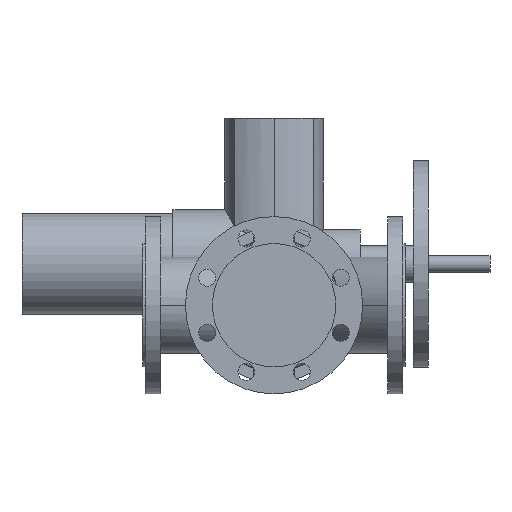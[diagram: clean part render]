
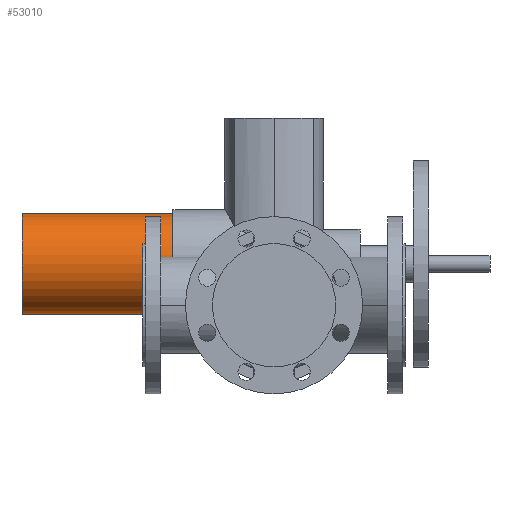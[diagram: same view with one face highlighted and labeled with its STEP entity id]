
A CAD part, front view. The second image highlights one B-rep face of the part: STEP entity #53010.
In plain terms, the highlighted cylindrical face has radius 76.5 mm (diameter 153 mm), a partial arc.
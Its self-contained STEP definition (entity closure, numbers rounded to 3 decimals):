
#52600=CARTESIAN_POINT('',(-69.,674.,63.));
#52610=DIRECTION('',(1.,0.,0.));
#52620=DIRECTION('',(0.,0.,-1.));
#52630=AXIS2_PLACEMENT_3D('',#52600,#52610,#52620);
#52640=CYLINDRICAL_SURFACE('',#52630,76.5);
#52650=CARTESIAN_POINT('',(-69.,674.,-13.5));
#52660=DIRECTION('',(1.,0.,0.));
#52670=VECTOR('',#52660,1.);
#52680=LINE('',#52650,#52670);
#52690=CARTESIAN_POINT('',(-184.,674.,-13.5));
#52700=VERTEX_POINT('',#52690);
#52710=CARTESIAN_POINT('',(46.,674.,-13.5));
#52720=VERTEX_POINT('',#52710);
#52730=EDGE_CURVE('',#52700,#52720,#52680,.T.);
#52740=ORIENTED_EDGE('',*,*,#52730,.T.);
#52750=CARTESIAN_POINT('',(-184.,674.,63.));
#52760=DIRECTION('',(-1.,0.,0.));
#52770=DIRECTION('',(0.,0.,-1.));
#52780=AXIS2_PLACEMENT_3D('',#52750,#52760,#52770);
#52790=CIRCLE('',#52780,76.5);
#52800=CARTESIAN_POINT('',(-184.,674.,139.5));
#52810=VERTEX_POINT('',#52800);
#52820=EDGE_CURVE('',#52700,#52810,#52790,.T.);
#52830=ORIENTED_EDGE('',*,*,#52820,.F.);
#52840=CARTESIAN_POINT('',(-69.,674.,139.5));
#52850=DIRECTION('',(1.,0.,0.));
#52860=VECTOR('',#52850,1.);
#52870=LINE('',#52840,#52860);
#52880=CARTESIAN_POINT('',(46.,674.,139.5));
#52890=VERTEX_POINT('',#52880);
#52900=EDGE_CURVE('',#52810,#52890,#52870,.T.);
#52910=ORIENTED_EDGE('',*,*,#52900,.F.);
#52920=CARTESIAN_POINT('',(46.,674.,63.));
#52930=DIRECTION('',(-1.,0.,0.));
#52940=DIRECTION('',(0.,0.,-1.));
#52950=AXIS2_PLACEMENT_3D('',#52920,#52930,#52940);
#52960=CIRCLE('',#52950,76.5);
#52970=EDGE_CURVE('',#52720,#52890,#52960,.T.);
#52980=ORIENTED_EDGE('',*,*,#52970,.T.);
#52990=EDGE_LOOP('',(#52980,#52910,#52830,#52740));
#53000=FACE_OUTER_BOUND('',#52990,.T.);
#53010=ADVANCED_FACE('',(#53000),#52640,.T.);
